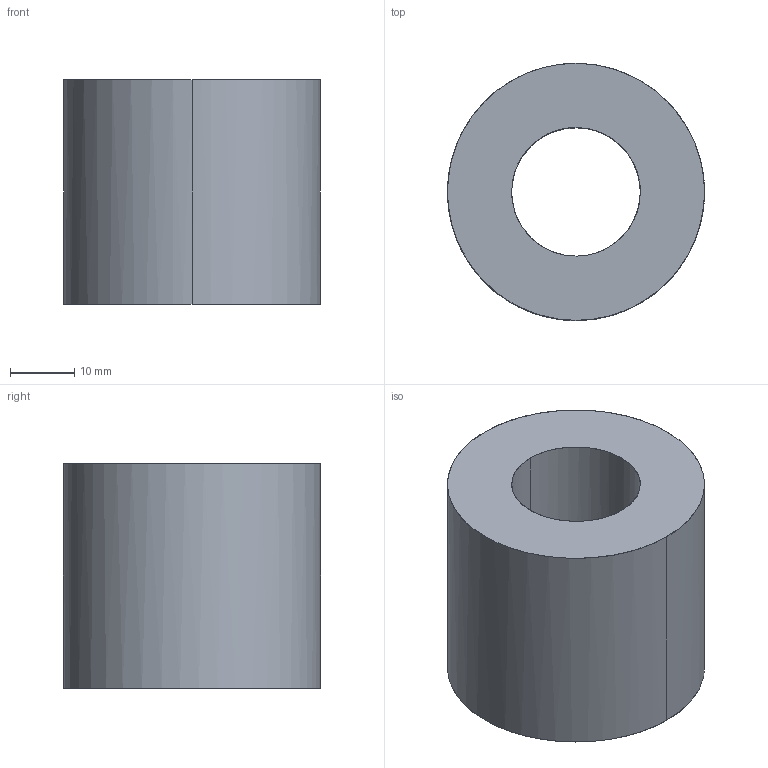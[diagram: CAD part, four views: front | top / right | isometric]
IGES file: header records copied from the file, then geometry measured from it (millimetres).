
Global section: file name: E:\UnigraphicsGraphicData\MISUMI_PRESS-PARTS\IGES\3d_swg40-35_00751_r00.igs; native system: NX V5.0; preprocessor: UGS NX IGES V5.0; author: MISUMI; date: 20110105.163256; units: millimetre
Bounding box: 40 x 40 x 35 mm (x, y, z)
Surface area: 8480.7 mm2 (no closed solid volume)
Topology: 0 solids, 0 shells, 6 faces, 64 edges, 64 vertices
Faces by surface type: bspline 6
